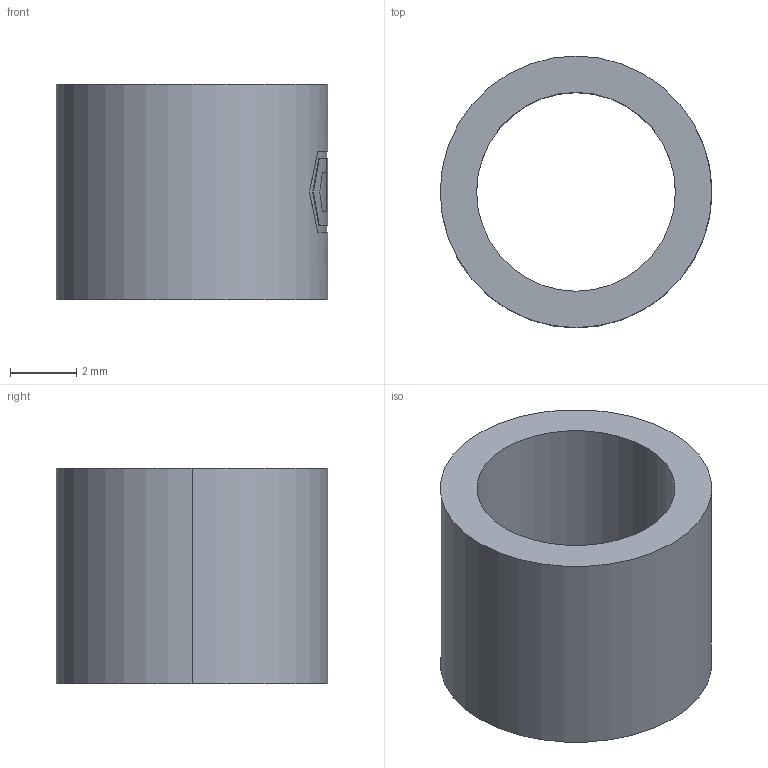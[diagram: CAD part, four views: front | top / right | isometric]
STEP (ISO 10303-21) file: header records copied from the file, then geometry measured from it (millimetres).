
FILE_DESCRIPTION (( 'STEP AP203' ), '1' );
FILE_NAME ('WJ-DM 12-1.STEP', '2007-02-21T08:58:56', ( ' ' ), ( '' ), 'SwSTEP 2.0', 'SolidWorks 2005278', '' );
FILE_SCHEMA (( 'CONFIG_CONTROL_DESIGN' ));
Length unit declared in the file: millimetre
Products named in the file (1): WJ-DM 12-1
Bounding box: 8.2 x 8.2 x 6.5 mm (x, y, z)
Volume: 159.4 mm3; surface area: 339.7 mm2
Topology: 1 solids, 1 shells, 43 faces, 117 edges, 78 vertices
Faces by surface type: plane 36, cylinder 7
Entity records: 1474 total; most frequent: CARTESIAN_POINT 305, ORIENTED_EDGE 234, DIRECTION 221, EDGE_CURVE 117, AXIS2_PLACEMENT_3D 80, VERTEX_POINT 78, VECTOR 61, LINE 61
